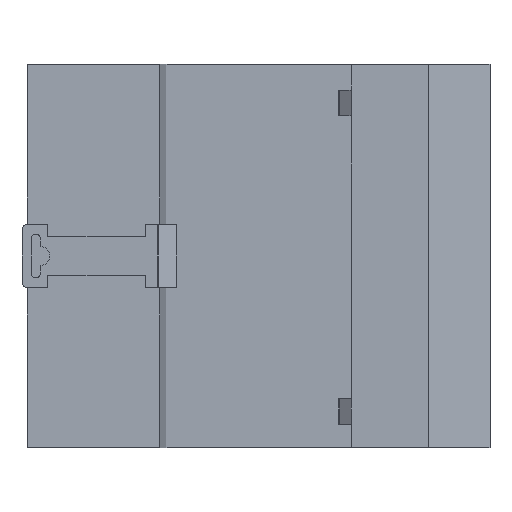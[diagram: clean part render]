
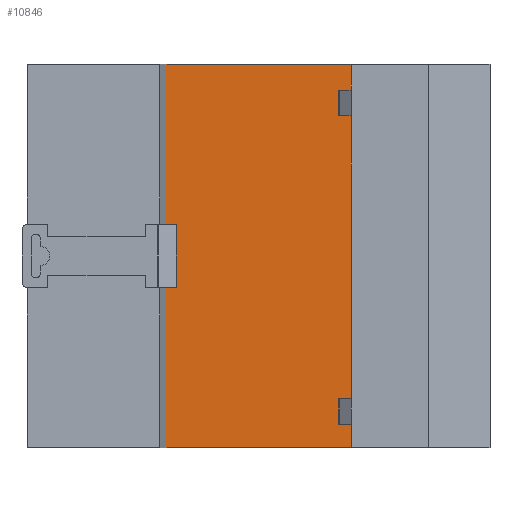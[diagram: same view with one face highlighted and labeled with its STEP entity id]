
A CAD part, left-side view. The second image highlights one B-rep face of the part: STEP entity #10846.
In plain terms, the highlighted planar face has unit normal (-1, 0, 0).
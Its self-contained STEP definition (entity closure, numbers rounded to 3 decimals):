
#497 = CARTESIAN_POINT ( 'NONE',  ( -60., -40.25, 74.5 ) ) ;
#1065 = VECTOR ( 'NONE', #7027, 1000. ) ;
#1443 = LINE ( 'NONE', #497, #3836 ) ;
#1722 = ORIENTED_EDGE ( 'NONE', *, *, #19801, .T. ) ;
#3218 = ORIENTED_EDGE ( 'NONE', *, *, #12382, .F. ) ;
#3836 = VECTOR ( 'NONE', #16257, 1000. ) ;
#4715 = EDGE_CURVE ( 'NONE', #9350, #12241, #21633, .T. ) ;
#4902 = CARTESIAN_POINT ( 'NONE',  ( -60., -4.25, 0. ) ) ;
#5361 = DIRECTION ( 'NONE',  ( 0., -1., 0. ) ) ;
#5777 = EDGE_LOOP ( 'NONE', ( #1722, #3218, #13960, #18279 ) ) ;
#6501 = DIRECTION ( 'NONE',  ( 0., 1., 0. ) ) ;
#6541 = DIRECTION ( 'NONE',  ( 0., 0., -1. ) ) ;
#7027 = DIRECTION ( 'NONE',  ( 0., -1., 0. ) ) ;
#7205 = CARTESIAN_POINT ( 'NONE',  ( -60., -4.25, 74.5 ) ) ;
#9350 = VERTEX_POINT ( 'NONE', #7205 ) ;
#9606 = LINE ( 'NONE', #4902, #1065 ) ;
#10548 = CARTESIAN_POINT ( 'NONE',  ( -60., -4.25, 74.5 ) ) ;
#10846 = ADVANCED_FACE ( 'NONE', ( #19628 ), #14927, .F. ) ;
#11521 = CARTESIAN_POINT ( 'NONE',  ( -60., -4.25, 74.5 ) ) ;
#12241 = VERTEX_POINT ( 'NONE', #19466 ) ;
#12382 = EDGE_CURVE ( 'NONE', #12241, #19576, #1443, .T. ) ;
#13960 = ORIENTED_EDGE ( 'NONE', *, *, #4715, .F. ) ;
#14425 = CARTESIAN_POINT ( 'NONE',  ( -60., -4.25, 0. ) ) ;
#14927 = PLANE ( 'NONE',  #17188 ) ;
#15929 = VERTEX_POINT ( 'NONE', #14425 ) ;
#16009 = VECTOR ( 'NONE', #6541, 1000. ) ;
#16257 = DIRECTION ( 'NONE',  ( 0., 0., -1. ) ) ;
#16303 = LINE ( 'NONE', #11521, #16009 ) ;
#17188 = AXIS2_PLACEMENT_3D ( 'NONE', #21865, #18259, #6501 ) ;
#18259 = DIRECTION ( 'NONE',  ( 1., 0., 0. ) ) ;
#18279 = ORIENTED_EDGE ( 'NONE', *, *, #19753, .T. ) ;
#19434 = CARTESIAN_POINT ( 'NONE',  ( -60., -40.25, 0. ) ) ;
#19466 = CARTESIAN_POINT ( 'NONE',  ( -60., -40.25, 74.5 ) ) ;
#19482 = VECTOR ( 'NONE', #5361, 1000. ) ;
#19576 = VERTEX_POINT ( 'NONE', #19434 ) ;
#19628 = FACE_OUTER_BOUND ( 'NONE', #5777, .T. ) ;
#19753 = EDGE_CURVE ( 'NONE', #9350, #15929, #16303, .T. ) ;
#19801 = EDGE_CURVE ( 'NONE', #15929, #19576, #9606, .T. ) ;
#21633 = LINE ( 'NONE', #10548, #19482 ) ;
#21865 = CARTESIAN_POINT ( 'NONE',  ( -60., -4.25, 74.5 ) ) ;
